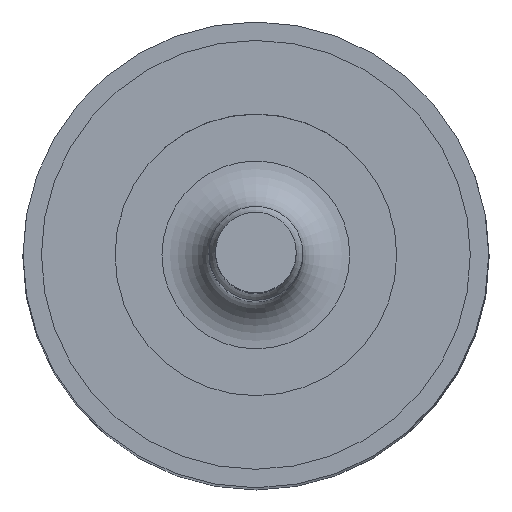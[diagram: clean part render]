
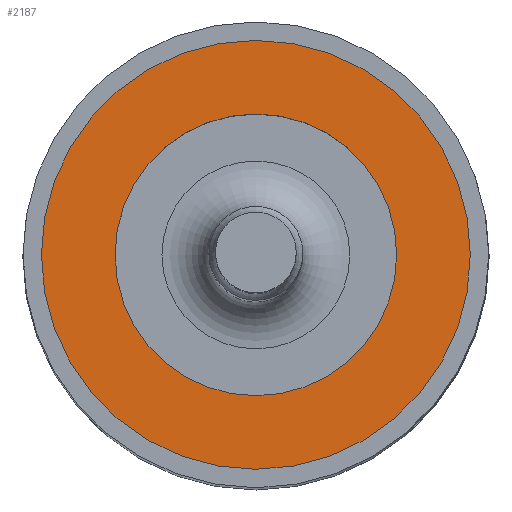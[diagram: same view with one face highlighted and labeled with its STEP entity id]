
A CAD part, top view. The second image highlights one B-rep face of the part: STEP entity #2187.
In plain terms, the highlighted planar face has unit normal (0, 0, 1).
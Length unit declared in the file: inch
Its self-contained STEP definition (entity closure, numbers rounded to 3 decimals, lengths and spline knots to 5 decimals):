
#2125=CARTESIAN_POINT('',(0.375,0.,0.25));
#2126=VERTEX_POINT('',#2125);
#2127=CARTESIAN_POINT('',(0.0,0.0,0.25));
#2128=DIRECTION('',(0.0,0.0,-1.0));
#2129=DIRECTION('',(-1.0,0.0,0.0));
#2130=AXIS2_PLACEMENT_3D('',#2127,#2128,#2129);
#2131=CIRCLE('',#2130,0.375);
#2132=EDGE_CURVE('',#2126,#2126,#2131,.T.);
#2153=CARTESIAN_POINT('',(0.571,0.,0.25));
#2154=VERTEX_POINT('',#2153);
#2155=CARTESIAN_POINT('',(0.0,0.0,0.25));
#2156=DIRECTION('',(0.0,0.0,1.0));
#2157=DIRECTION('',(-1.0,0.0,0.0));
#2158=AXIS2_PLACEMENT_3D('',#2155,#2156,#2157);
#2159=CIRCLE('',#2158,0.571);
#2160=EDGE_CURVE('',#2154,#2154,#2159,.T.);
#2176=CARTESIAN_POINT('',(0.,0.0,0.25));
#2177=DIRECTION('',(0.0,0.0,1.0));
#2178=DIRECTION('',(1.0,0.0,0.0));
#2179=AXIS2_PLACEMENT_3D('',#2176,#2177,#2178);
#2180=PLANE('',#2179);
#2181=ORIENTED_EDGE('',*,*,#2160,.T.);
#2182=EDGE_LOOP('',(#2181));
#2183=FACE_OUTER_BOUND('',#2182,.T.);
#2184=ORIENTED_EDGE('',*,*,#2132,.T.);
#2185=EDGE_LOOP('',(#2184));
#2186=FACE_BOUND('',#2185,.T.);
#2187=ADVANCED_FACE('',(#2183,#2186),#2180,.T.);
